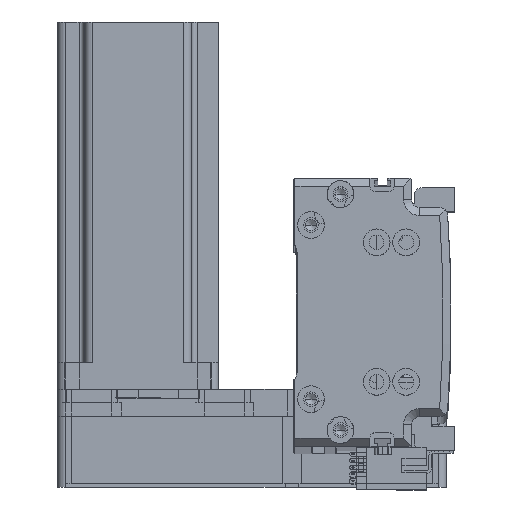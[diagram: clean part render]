
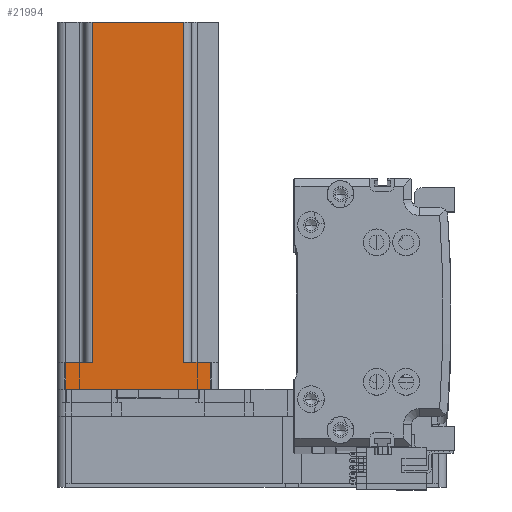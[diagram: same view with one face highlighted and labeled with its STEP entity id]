
A CAD part, top view. The second image highlights one B-rep face of the part: STEP entity #21994.
In plain terms, the highlighted planar face has unit normal (0, 0, 1) as drawn and (0, 1, 0) by its records, which use the part's own axes.
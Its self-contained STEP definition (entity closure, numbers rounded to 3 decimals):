
#279 = CARTESIAN_POINT ( 'NONE',  ( 30., 30., 137. ) ) ;
#1651 = ORIENTED_EDGE ( 'NONE', *, *, #20094, .T. ) ;
#2516 = CARTESIAN_POINT ( 'NONE',  ( 30., 30., 0. ) ) ;
#4335 = PLANE ( 'NONE',  #8757 ) ;
#5628 = LINE ( 'NONE', #19839, #54458 ) ;
#5641 = CARTESIAN_POINT ( 'NONE',  ( 20., 30., 10. ) ) ;
#7284 = CARTESIAN_POINT ( 'NONE',  ( -17., 30., 137. ) ) ;
#8757 = AXIS2_PLACEMENT_3D ( 'NONE', #23341, #56408, #28068 ) ;
#9223 = CARTESIAN_POINT ( 'NONE',  ( 17., 30., 137. ) ) ;
#10555 = DIRECTION ( 'NONE',  ( 0., 0., -1. ) ) ;
#10602 = DIRECTION ( 'NONE',  ( -1., 0., 0. ) ) ;
#11475 = VECTOR ( 'NONE', #52169, 1000. ) ;
#13463 = VECTOR ( 'NONE', #26073, 1000. ) ;
#14617 = VERTEX_POINT ( 'NONE', #9223 ) ;
#16507 = ORIENTED_EDGE ( 'NONE', *, *, #34663, .T. ) ;
#16737 = CARTESIAN_POINT ( 'NONE',  ( -17., 30., 137. ) ) ;
#17522 = LINE ( 'NONE', #47611, #52315 ) ;
#18547 = VERTEX_POINT ( 'NONE', #52277 ) ;
#18941 = CARTESIAN_POINT ( 'NONE',  ( 27., 30., 0. ) ) ;
#19264 = DIRECTION ( 'NONE',  ( 0., 0., -1. ) ) ;
#19839 = CARTESIAN_POINT ( 'NONE',  ( 17., 30., 137. ) ) ;
#20094 = EDGE_CURVE ( 'NONE', #55063, #43286, #17522, .T. ) ;
#20537 = CARTESIAN_POINT ( 'NONE',  ( -17., 30., 10. ) ) ;
#20698 = ORIENTED_EDGE ( 'NONE', *, *, #59524, .T. ) ;
#21790 = VERTEX_POINT ( 'NONE', #49246 ) ;
#21994 = ADVANCED_FACE ( 'NONE', ( #47101 ), #4335, .F. ) ;
#22870 = VECTOR ( 'NONE', #34164, 1000. ) ;
#22951 = CARTESIAN_POINT ( 'NONE',  ( -27., 30., 137. ) ) ;
#23209 = CARTESIAN_POINT ( 'NONE',  ( 27., 30., 10. ) ) ;
#23341 = CARTESIAN_POINT ( 'NONE',  ( 30., 30., 137. ) ) ;
#26073 = DIRECTION ( 'NONE',  ( -1., 0., 0. ) ) ;
#26400 = VECTOR ( 'NONE', #56015, 1000. ) ;
#27592 = ORIENTED_EDGE ( 'NONE', *, *, #36615, .T. ) ;
#28068 = DIRECTION ( 'NONE',  ( 1., 0., 0. ) ) ;
#30845 = VECTOR ( 'NONE', #35556, 1000. ) ;
#31184 = VECTOR ( 'NONE', #10602, 1000. ) ;
#31327 = EDGE_LOOP ( 'NONE', ( #16507, #51729, #43472, #20698, #56165, #1651, #57802, #27592 ) ) ;
#33060 = VERTEX_POINT ( 'NONE', #39560 ) ;
#34164 = DIRECTION ( 'NONE',  ( 1., 0., 0. ) ) ;
#34663 = EDGE_CURVE ( 'NONE', #33060, #47868, #36885, .T. ) ;
#34801 = EDGE_CURVE ( 'NONE', #43286, #21790, #40081, .T. ) ;
#35556 = DIRECTION ( 'NONE',  ( 0., 0., 1. ) ) ;
#36615 = EDGE_CURVE ( 'NONE', #21790, #33060, #51584, .T. ) ;
#36885 = LINE ( 'NONE', #38895, #22870 ) ;
#38895 = CARTESIAN_POINT ( 'NONE',  ( -20., 30., 10. ) ) ;
#39560 = CARTESIAN_POINT ( 'NONE',  ( -27., 30., 10. ) ) ;
#40081 = LINE ( 'NONE', #2516, #13463 ) ;
#42211 = EDGE_CURVE ( 'NONE', #14617, #44101, #60274, .T. ) ;
#43286 = VERTEX_POINT ( 'NONE', #18941 ) ;
#43472 = ORIENTED_EDGE ( 'NONE', *, *, #42211, .F. ) ;
#44101 = VERTEX_POINT ( 'NONE', #16737 ) ;
#47101 = FACE_OUTER_BOUND ( 'NONE', #31327, .T. ) ;
#47611 = CARTESIAN_POINT ( 'NONE',  ( 27., 30., 137. ) ) ;
#47868 = VERTEX_POINT ( 'NONE', #20537 ) ;
#49246 = CARTESIAN_POINT ( 'NONE',  ( -27., 30., 0. ) ) ;
#51584 = LINE ( 'NONE', #22951, #26400 ) ;
#51729 = ORIENTED_EDGE ( 'NONE', *, *, #58602, .T. ) ;
#52169 = DIRECTION ( 'NONE',  ( -1., 0., 0. ) ) ;
#52277 = CARTESIAN_POINT ( 'NONE',  ( 17., 30., 10. ) ) ;
#52315 = VECTOR ( 'NONE', #19264, 1000. ) ;
#53416 = LINE ( 'NONE', #5641, #31184 ) ;
#54458 = VECTOR ( 'NONE', #10555, 1000. ) ;
#55063 = VERTEX_POINT ( 'NONE', #23209 ) ;
#55256 = EDGE_CURVE ( 'NONE', #55063, #18547, #53416, .T. ) ;
#56005 = LINE ( 'NONE', #7284, #30845 ) ;
#56015 = DIRECTION ( 'NONE',  ( 0., 0., 1. ) ) ;
#56165 = ORIENTED_EDGE ( 'NONE', *, *, #55256, .F. ) ;
#56408 = DIRECTION ( 'NONE',  ( 0., -1., 0. ) ) ;
#57802 = ORIENTED_EDGE ( 'NONE', *, *, #34801, .T. ) ;
#58602 = EDGE_CURVE ( 'NONE', #47868, #44101, #56005, .T. ) ;
#59524 = EDGE_CURVE ( 'NONE', #14617, #18547, #5628, .T. ) ;
#60274 = LINE ( 'NONE', #279, #11475 ) ;
